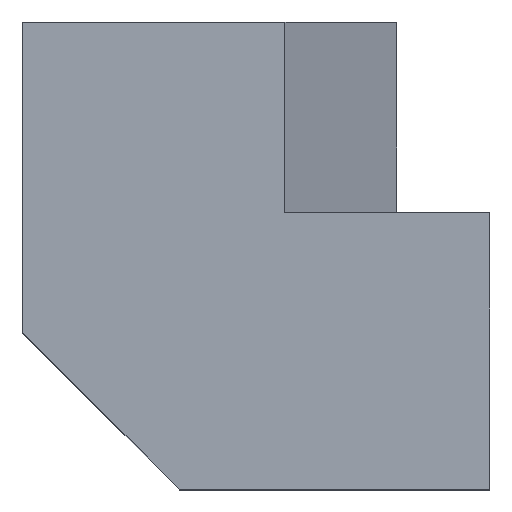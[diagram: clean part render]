
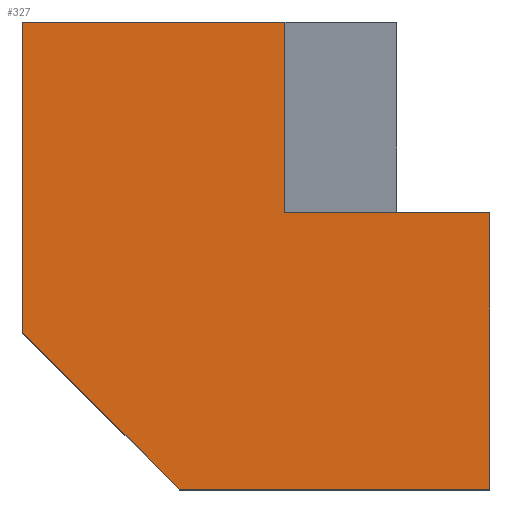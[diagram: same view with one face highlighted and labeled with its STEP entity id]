
A CAD part, top view. The second image highlights one B-rep face of the part: STEP entity #327.
In plain terms, the highlighted planar face has unit normal (0, 0, 1).
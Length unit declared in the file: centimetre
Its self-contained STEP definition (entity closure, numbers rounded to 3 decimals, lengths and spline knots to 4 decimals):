
#19 = CARTESIAN_POINT ( 'NONE',  ( 562.0608, 591.3786, 1000. ) ) ;
#20 = CARTESIAN_POINT ( 'NONE',  ( 1000., 591.3786, 1000. ) ) ;
#31 = CARTESIAN_POINT ( 'NONE',  ( 0., 0., 1000. ) ) ;
#32 = VERTEX_POINT ( 'NONE', #124 ) ;
#41 = VECTOR ( 'NONE', #334, 100. ) ;
#45 = LINE ( 'NONE', #106, #337 ) ;
#48 = LINE ( 'NONE', #20, #67 ) ;
#50 = DIRECTION ( 'NONE',  ( 1., 0., 0. ) ) ;
#56 = EDGE_LOOP ( 'NONE', ( #355, #352, #68, #313, #317, #264, #59 ) ) ;
#59 = ORIENTED_EDGE ( 'NONE', *, *, #167, .F. ) ;
#63 = VERTEX_POINT ( 'NONE', #209 ) ;
#64 = EDGE_CURVE ( 'NONE', #253, #83, #210, .T. ) ;
#67 = VECTOR ( 'NONE', #50, 100. ) ;
#68 = ORIENTED_EDGE ( 'NONE', *, *, #64, .T. ) ;
#74 = CARTESIAN_POINT ( 'NONE',  ( 0., 0., 1000. ) ) ;
#83 = VERTEX_POINT ( 'NONE', #319 ) ;
#89 = VERTEX_POINT ( 'NONE', #291 ) ;
#90 = LINE ( 'NONE', #314, #211 ) ;
#94 = EDGE_CURVE ( 'NONE', #89, #147, #176, .T. ) ;
#97 = VECTOR ( 'NONE', #175, 100. ) ;
#98 = CARTESIAN_POINT ( 'NONE',  ( 1000., 1000., 1000. ) ) ;
#106 = CARTESIAN_POINT ( 'NONE',  ( 0., 1000., 1000. ) ) ;
#116 = DIRECTION ( 'NONE',  ( 0.707, -0.707, 0. ) ) ;
#120 = DIRECTION ( 'NONE',  ( 0., 1., 0. ) ) ;
#124 = CARTESIAN_POINT ( 'NONE',  ( 562.0608, 1000., 1000. ) ) ;
#130 = CARTESIAN_POINT ( 'NONE',  ( 1000., 591.3786, 1000. ) ) ;
#138 = PLANE ( 'NONE',  #165 ) ;
#147 = VERTEX_POINT ( 'NONE', #130 ) ;
#159 = DIRECTION ( 'NONE',  ( -1., 0., 0. ) ) ;
#165 = AXIS2_PLACEMENT_3D ( 'NONE', #31, #166, #344 ) ;
#166 = DIRECTION ( 'NONE',  ( 0., 0., 1. ) ) ;
#167 = EDGE_CURVE ( 'NONE', #348, #147, #48, .T. ) ;
#172 = EDGE_CURVE ( 'NONE', #348, #32, #300, .T. ) ;
#175 = DIRECTION ( 'NONE',  ( 0., -1., 0. ) ) ;
#176 = LINE ( 'NONE', #98, #366 ) ;
#189 = EDGE_CURVE ( 'NONE', #63, #89, #192, .T. ) ;
#190 = DIRECTION ( 'NONE',  ( 0., 1., 0. ) ) ;
#192 = LINE ( 'NONE', #74, #41 ) ;
#208 = CARTESIAN_POINT ( 'NONE',  ( 0., 1000., 1000. ) ) ;
#209 = CARTESIAN_POINT ( 'NONE',  ( 335.8433, 0., 1000. ) ) ;
#210 = LINE ( 'NONE', #208, #97 ) ;
#211 = VECTOR ( 'NONE', #116, 100. ) ;
#243 = CARTESIAN_POINT ( 'NONE',  ( 0., 1000., 1000. ) ) ;
#253 = VERTEX_POINT ( 'NONE', #243 ) ;
#264 = ORIENTED_EDGE ( 'NONE', *, *, #94, .T. ) ;
#283 = EDGE_CURVE ( 'NONE', #32, #253, #45, .T. ) ;
#291 = CARTESIAN_POINT ( 'NONE',  ( 1000., 0., 1000. ) ) ;
#300 = LINE ( 'NONE', #19, #332 ) ;
#313 = ORIENTED_EDGE ( 'NONE', *, *, #353, .T. ) ;
#314 = CARTESIAN_POINT ( 'NONE',  ( 167.9216, 167.9216, 1000. ) ) ;
#317 = ORIENTED_EDGE ( 'NONE', *, *, #189, .T. ) ;
#319 = CARTESIAN_POINT ( 'NONE',  ( 0., 335.8433, 1000. ) ) ;
#327 = ADVANCED_FACE ( 'NONE', ( #340 ), #138, .T. ) ;
#332 = VECTOR ( 'NONE', #190, 100. ) ;
#334 = DIRECTION ( 'NONE',  ( 1., 0., 0. ) ) ;
#335 = CARTESIAN_POINT ( 'NONE',  ( 562.0608, 591.3786, 1000. ) ) ;
#337 = VECTOR ( 'NONE', #159, 100. ) ;
#340 = FACE_OUTER_BOUND ( 'NONE', #56, .T. ) ;
#344 = DIRECTION ( 'NONE',  ( 1., 0., 0. ) ) ;
#348 = VERTEX_POINT ( 'NONE', #335 ) ;
#352 = ORIENTED_EDGE ( 'NONE', *, *, #283, .T. ) ;
#353 = EDGE_CURVE ( 'NONE', #83, #63, #90, .T. ) ;
#355 = ORIENTED_EDGE ( 'NONE', *, *, #172, .T. ) ;
#366 = VECTOR ( 'NONE', #120, 100. ) ;
